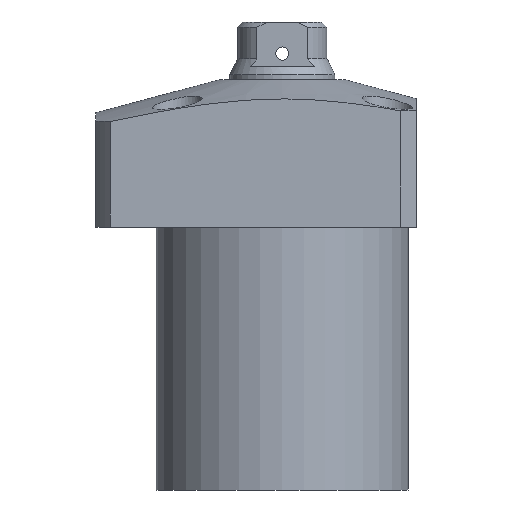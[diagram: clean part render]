
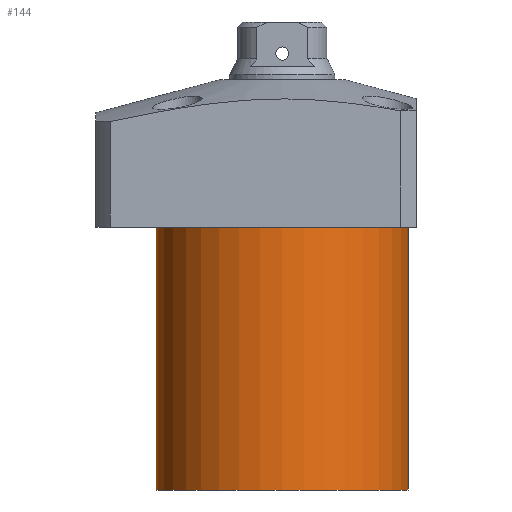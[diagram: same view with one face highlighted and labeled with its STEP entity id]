
A CAD part, front view. The second image highlights one B-rep face of the part: STEP entity #144.
In plain terms, the highlighted cylindrical face has radius 24 mm (diameter 48 mm), a partial arc.
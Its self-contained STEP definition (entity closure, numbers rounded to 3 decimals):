
#27 = EDGE_CURVE ( 'NONE', #50, #1796, #171, .T. ) ;
#50 = VERTEX_POINT ( 'NONE', #2440 ) ;
#57 = EDGE_CURVE ( 'NONE', #1796, #1599, #2515, .T. ) ;
#111 = VERTEX_POINT ( 'NONE', #678 ) ;
#131 = EDGE_CURVE ( 'NONE', #111, #1599, #1463, .T. ) ;
#144 = ADVANCED_FACE ( 'NONE', ( #1721 ), #555, .T. ) ;
#166 = AXIS2_PLACEMENT_3D ( 'NONE', #932, #1289, #2563 ) ;
#171 = CIRCLE ( 'NONE', #166, 24. ) ;
#205 = AXIS2_PLACEMENT_3D ( 'NONE', #536, #1151, #942 ) ;
#262 = ORIENTED_EDGE ( 'NONE', *, *, #57, .F. ) ;
#274 = CARTESIAN_POINT ( 'NONE',  ( -24., 0., -64. ) ) ;
#286 = ORIENTED_EDGE ( 'NONE', *, *, #131, .T. ) ;
#349 = CARTESIAN_POINT ( 'NONE',  ( 24., 0., -64. ) ) ;
#532 = CARTESIAN_POINT ( 'NONE',  ( 0., 0., -14. ) ) ;
#536 = CARTESIAN_POINT ( 'NONE',  ( 0., 0., -64. ) ) ;
#555 = CYLINDRICAL_SURFACE ( 'NONE', #205, 24. ) ;
#637 = EDGE_CURVE ( 'NONE', #50, #111, #1557, .T. ) ;
#678 = CARTESIAN_POINT ( 'NONE',  ( 24., 0., -14. ) ) ;
#698 = ORIENTED_EDGE ( 'NONE', *, *, #27, .F. ) ;
#904 = CARTESIAN_POINT ( 'NONE',  ( -24., 0., -64. ) ) ;
#932 = CARTESIAN_POINT ( 'NONE',  ( 0., 0., -64. ) ) ;
#942 = DIRECTION ( 'NONE',  ( 1., 0., 0. ) ) ;
#1082 = ORIENTED_EDGE ( 'NONE', *, *, #637, .T. ) ;
#1151 = DIRECTION ( 'NONE',  ( 0., 0., 1. ) ) ;
#1289 = DIRECTION ( 'NONE',  ( 0., 0., -1. ) ) ;
#1354 = VECTOR ( 'NONE', #2397, 1000. ) ;
#1463 = CIRCLE ( 'NONE', #1742, 24. ) ;
#1557 = LINE ( 'NONE', #349, #2411 ) ;
#1599 = VERTEX_POINT ( 'NONE', #2436 ) ;
#1721 = FACE_OUTER_BOUND ( 'NONE', #1802, .T. ) ;
#1742 = AXIS2_PLACEMENT_3D ( 'NONE', #532, #2416, #2605 ) ;
#1796 = VERTEX_POINT ( 'NONE', #904 ) ;
#1802 = EDGE_LOOP ( 'NONE', ( #262, #698, #1082, #286 ) ) ;
#2020 = DIRECTION ( 'NONE',  ( 0., 0., 1. ) ) ;
#2397 = DIRECTION ( 'NONE',  ( 0., 0., 1. ) ) ;
#2411 = VECTOR ( 'NONE', #2020, 1000. ) ;
#2416 = DIRECTION ( 'NONE',  ( 0., 0., -1. ) ) ;
#2436 = CARTESIAN_POINT ( 'NONE',  ( -24., 0., -14. ) ) ;
#2440 = CARTESIAN_POINT ( 'NONE',  ( 24., 0., -64. ) ) ;
#2515 = LINE ( 'NONE', #274, #1354 ) ;
#2563 = DIRECTION ( 'NONE',  ( -1., 0., 0. ) ) ;
#2605 = DIRECTION ( 'NONE',  ( 1., 0., 0. ) ) ;
